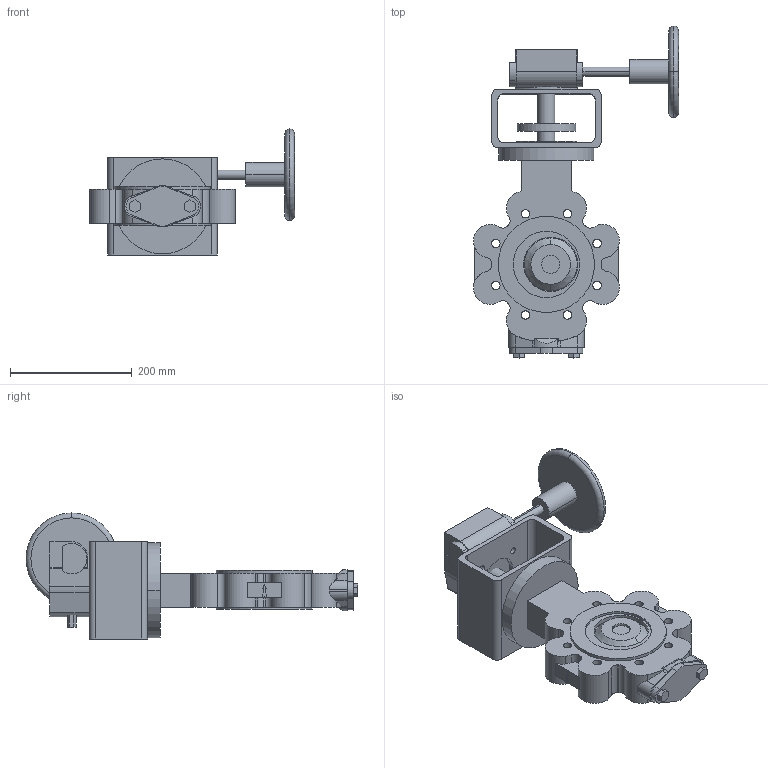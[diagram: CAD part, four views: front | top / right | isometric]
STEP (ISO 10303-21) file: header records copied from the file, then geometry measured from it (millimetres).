
FILE_DESCRIPTION( ( '' ), '1' );
FILE_NAME( 'F:/DE-SHS/TB/OR/04-Sonstiges/daten/Excel/mneugeba/018_ZETRIX-PN10_Getriebe-Rotork/c000006419.stp', '2016-09-19T06:19:16', ( '' ), ( '' ), ' ', ' ', ' ' );
FILE_SCHEMA( ( 'CONFIG_CONTROL_DESIGN' ) );
Length unit declared in the file: millimetre
Products named in the file (2): 1; 2
Bounding box: 336.88 x 545.3 x 207 mm (x, y, z)
Volume: 4988964.9 mm3; surface area: 516034.2 mm2
Topology: 2 solids, 2 shells, 309 faces, 831 edges, 555 vertices
Faces by surface type: cylinder 172, plane 129, cone 4, torus 4
Entity records: 10438 total; most frequent: CARTESIAN_POINT 2186, DIRECTION 1802, ORIENTED_EDGE 1662, EDGE_CURVE 831, AXIS2_PLACEMENT_3D 681, VERTEX_POINT 555, LINE 440, VECTOR 440
